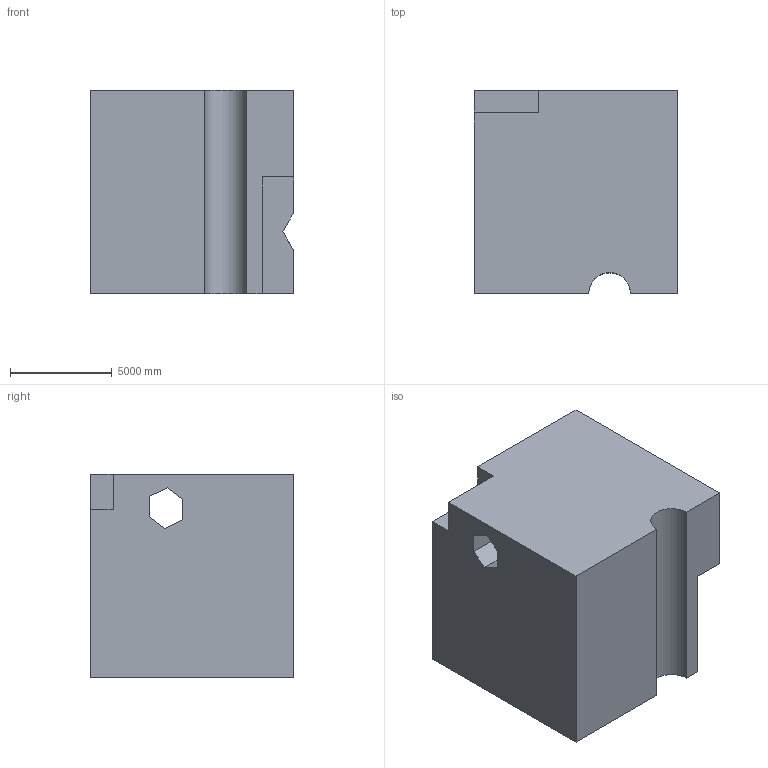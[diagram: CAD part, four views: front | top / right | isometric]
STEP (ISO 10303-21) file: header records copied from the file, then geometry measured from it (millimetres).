
FILE_DESCRIPTION (( 'STEP AP203' ), '1' );
FILE_NAME ('178.STEP', '2022-08-31T12:12:14', ( 'user' ), ( '' ), 'SwSTEP 2.0', 'SolidWorks 2021', '' );
FILE_SCHEMA (( 'CONFIG_CONTROL_DESIGN' ));
Length unit declared in the file: centimetre
Products named in the file (1): 178
Bounding box: 10000 x 10000 x 10000 mm (x, y, z)
Volume: 875835175159.9 mm3; surface area: 718509876.2 mm2
Topology: 1 solids, 1 shells, 39 faces, 108 edges, 72 vertices
Faces by surface type: plane 38, cylinder 1
Entity records: 1305 total; most frequent: CARTESIAN_POINT 220, ORIENTED_EDGE 216, DIRECTION 190, EDGE_CURVE 108, VECTOR 106, LINE 106, VERTEX_POINT 72, EDGE_LOOP 42
